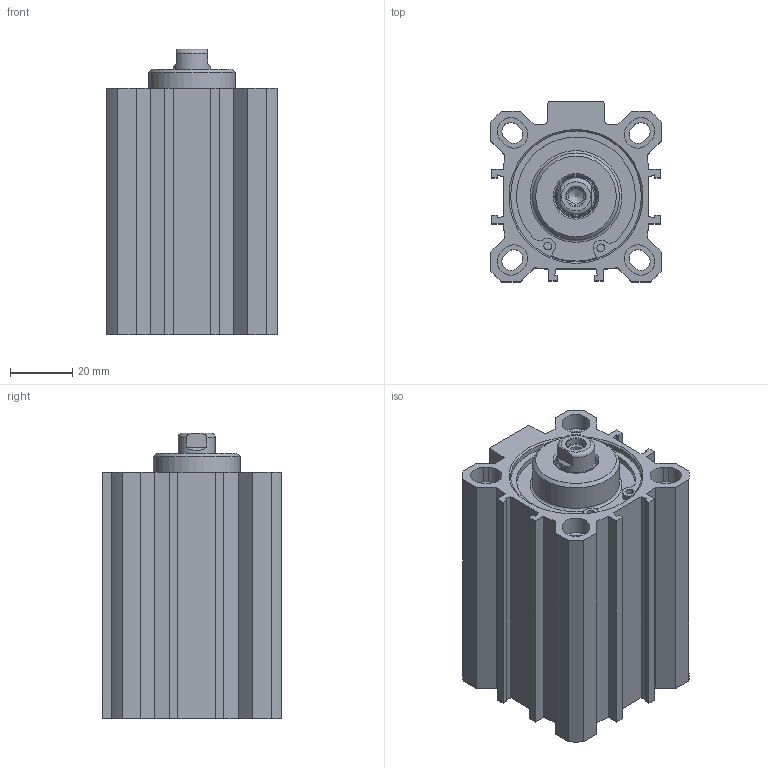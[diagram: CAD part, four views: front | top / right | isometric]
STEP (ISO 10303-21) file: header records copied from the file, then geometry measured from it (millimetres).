
FILE_DESCRIPTION(/* description */ ('Unknown'),/* implementation_level */ '2;1');
FILE_NAME(/* name */ 'FIN 40_40',/* time_stamp */ '2026-05-12T08:20:36+02:00',/* author */ ('Unknown'),/* organization */ ('Unknown'),/* preprocessor_version */ 'ST-DEVELOPER v18.102',/* originating_system */ 'Solid Edge',/* authorisation */ 'Unknown');
FILE_SCHEMA (('AUTOMOTIVE_DESIGN {1 0 10303 214 3 1 1}'));
Length unit declared in the file: millimetre
Products named in the file (5): FIN 40_40; Kit_1; Profilrohr; Kit_2; Kolbenstange
Assembly tree (4 placements, depth 2):
  FIN 40_40
    Kit_1
    Profilrohr
    Kit_2
    Kolbenstange
Bounding box: 55 x 58 x 92 mm (x, y, z)
Volume: 148770.1 mm3; surface area: 61835.8 mm2
Topology: 4 solids, 5 shells, 241 faces, 596 edges, 385 vertices
Faces by surface type: plane 130, cylinder 72, cone 26, torus 13
Full cylindrical faces by diameter (mm): 2.25 x2, 2.5 x4, 4.917 x2, 6.25 x1, 8.566 x4, 12 x2, 12.54 x1, 13.7 x1, 14 x1, 16.32 x1, 16.5 x1, 27.9 x1, 28 x1, 40 x2, 41.7 x4, 42.2 x2, 44.7 x2
Entity records: 8550 total; most frequent: CARTESIAN_POINT 1260, DIRECTION 1168, ORIENTED_EDGE 1022, EDGE_CURVE 511, AXIS2_PLACEMENT_3D 425, VERTEX_POINT 368, FACE_BOUND 347, EDGE_LOOP 346
